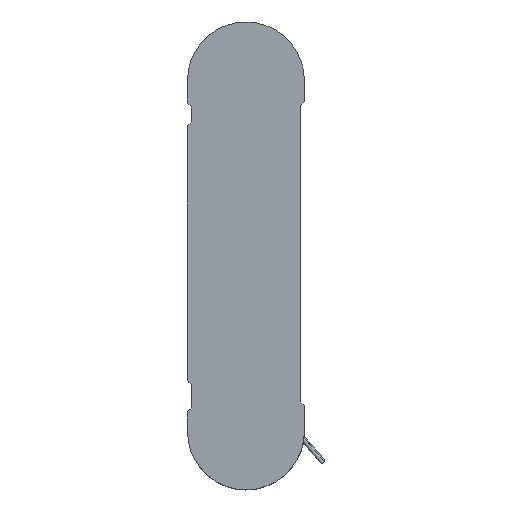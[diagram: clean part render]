
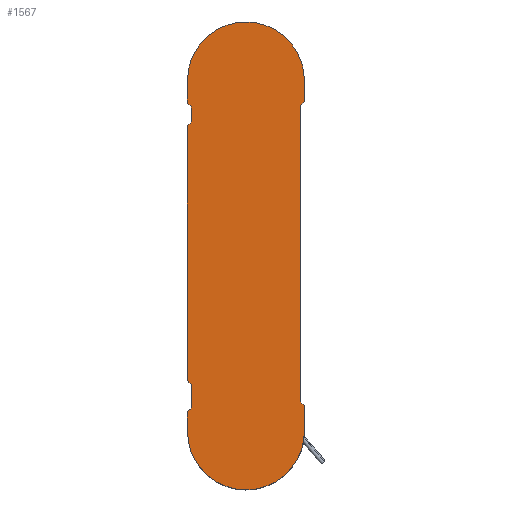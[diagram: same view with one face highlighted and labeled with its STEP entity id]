
A CAD part, top view. The second image highlights one B-rep face of the part: STEP entity #1567.
In plain terms, the highlighted planar face has unit normal (0, 0, 1).
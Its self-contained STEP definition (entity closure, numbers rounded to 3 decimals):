
#41 = VERTEX_POINT ( 'NONE', #2997 ) ;
#65 = LINE ( 'NONE', #2653, #1391 ) ;
#66 = LINE ( 'NONE', #1562, #266 ) ;
#78 = CARTESIAN_POINT ( 'NONE',  ( -7., -19.5, 12. ) ) ;
#104 = CARTESIAN_POINT ( 'NONE',  ( -7.5, 16.7, 12. ) ) ;
#196 = EDGE_CURVE ( 'NONE', #692, #1817, #2874, .T. ) ;
#200 = EDGE_CURVE ( 'NONE', #2324, #2081, #926, .T. ) ;
#225 = LINE ( 'NONE', #488, #587 ) ;
#250 = DIRECTION ( 'NONE',  ( 0., -1., 0. ) ) ;
#259 = DIRECTION ( 'NONE',  ( 0.707, -0.707, 0. ) ) ;
#266 = VECTOR ( 'NONE', #259, 1000. ) ;
#273 = CARTESIAN_POINT ( 'NONE',  ( 7.5, -22.5, 12. ) ) ;
#319 = CARTESIAN_POINT ( 'NONE',  ( -7., 19.1, 12. ) ) ;
#477 = CIRCLE ( 'NONE', #1967, 7.5 ) ;
#486 = ORIENTED_EDGE ( 'NONE', *, *, #3043, .F. ) ;
#488 = CARTESIAN_POINT ( 'NONE',  ( -7., 17.2, 12. ) ) ;
#522 = CARTESIAN_POINT ( 'NONE',  ( -7.5, -20., 12. ) ) ;
#529 = EDGE_CURVE ( 'NONE', #3071, #2928, #1082, .T. ) ;
#587 = VECTOR ( 'NONE', #2351, 1000. ) ;
#634 = EDGE_LOOP ( 'NONE', ( #2420, #2416, #3000, #3210, #863, #486, #1242, #3077, #895, #1446, #1650, #2578, #810, #1868, #2241, #2394 ) ) ;
#692 = VERTEX_POINT ( 'NONE', #2933 ) ;
#712 = CARTESIAN_POINT ( 'NONE',  ( 7.5, 19.8, 12. ) ) ;
#714 = LINE ( 'NONE', #2233, #2186 ) ;
#733 = CARTESIAN_POINT ( 'NONE',  ( -7.5, -16., 12. ) ) ;
#758 = CARTESIAN_POINT ( 'NONE',  ( -7.5, -22.5, 12. ) ) ;
#778 = CARTESIAN_POINT ( 'NONE',  ( -7.5, -22.5, 12. ) ) ;
#799 = EDGE_CURVE ( 'NONE', #1028, #1817, #2512, .T. ) ;
#810 = ORIENTED_EDGE ( 'NONE', *, *, #3310, .F. ) ;
#839 = VECTOR ( 'NONE', #1407, 1000. ) ;
#843 = LINE ( 'NONE', #2105, #3445 ) ;
#863 = ORIENTED_EDGE ( 'NONE', *, *, #2521, .F. ) ;
#871 = FACE_OUTER_BOUND ( 'NONE', #634, .T. ) ;
#877 = LINE ( 'NONE', #1663, #1759 ) ;
#895 = ORIENTED_EDGE ( 'NONE', *, *, #200, .T. ) ;
#926 = CIRCLE ( 'NONE', #2193, 7.5 ) ;
#1006 = DIRECTION ( 'NONE',  ( 0., -1., 0. ) ) ;
#1011 = DIRECTION ( 'NONE',  ( 1., 0., 0. ) ) ;
#1020 = AXIS2_PLACEMENT_3D ( 'NONE', #2850, #2045, #2016 ) ;
#1028 = VERTEX_POINT ( 'NONE', #1279 ) ;
#1052 = LINE ( 'NONE', #758, #3447 ) ;
#1059 = DIRECTION ( 'NONE',  ( 0., 1., 0. ) ) ;
#1082 = LINE ( 'NONE', #78, #3313 ) ;
#1090 = VECTOR ( 'NONE', #1059, 1000. ) ;
#1131 = EDGE_CURVE ( 'NONE', #3071, #2324, #3223, .T. ) ;
#1136 = DIRECTION ( 'NONE',  ( 0.707, 0.707, 0. ) ) ;
#1242 = ORIENTED_EDGE ( 'NONE', *, *, #529, .F. ) ;
#1279 = CARTESIAN_POINT ( 'NONE',  ( 7., 19.3, 12. ) ) ;
#1320 = DIRECTION ( 'NONE',  ( 0., -1., 0. ) ) ;
#1326 = VERTEX_POINT ( 'NONE', #319 ) ;
#1391 = VECTOR ( 'NONE', #1822, 1000. ) ;
#1407 = DIRECTION ( 'NONE',  ( 0., -1., 0. ) ) ;
#1436 = CARTESIAN_POINT ( 'NONE',  ( -7., -16.5, 12. ) ) ;
#1446 = ORIENTED_EDGE ( 'NONE', *, *, #2938, .T. ) ;
#1457 = CARTESIAN_POINT ( 'NONE',  ( 0., -22.5, 12. ) ) ;
#1483 = PLANE ( 'NONE',  #1020 ) ;
#1485 = VERTEX_POINT ( 'NONE', #1668 ) ;
#1526 = VERTEX_POINT ( 'NONE', #1436 ) ;
#1562 = CARTESIAN_POINT ( 'NONE',  ( -7.5, 19.6, 12. ) ) ;
#1563 = VERTEX_POINT ( 'NONE', #712 ) ;
#1567 = ADVANCED_FACE ( 'NONE', ( #871 ), #1483, .F. ) ;
#1644 = EDGE_CURVE ( 'NONE', #1485, #2422, #477, .T. ) ;
#1650 = ORIENTED_EDGE ( 'NONE', *, *, #196, .T. ) ;
#1663 = CARTESIAN_POINT ( 'NONE',  ( 7.5, 19.8, 12. ) ) ;
#1668 = CARTESIAN_POINT ( 'NONE',  ( 7.5, 22.5, 12. ) ) ;
#1688 = VERTEX_POINT ( 'NONE', #733 ) ;
#1725 = DIRECTION ( 'NONE',  ( -1., 0., 0. ) ) ;
#1739 = DIRECTION ( 'NONE',  ( -0.707, 0.707, 0. ) ) ;
#1759 = VECTOR ( 'NONE', #3022, 1000. ) ;
#1813 = DIRECTION ( 'NONE',  ( 0., 0., 1. ) ) ;
#1817 = VERTEX_POINT ( 'NONE', #3013 ) ;
#1822 = DIRECTION ( 'NONE',  ( 0., 1., 0. ) ) ;
#1851 = VECTOR ( 'NONE', #2012, 1000. ) ;
#1868 = ORIENTED_EDGE ( 'NONE', *, *, #2793, .T. ) ;
#1967 = AXIS2_PLACEMENT_3D ( 'NONE', #3404, #1813, #1011 ) ;
#2012 = DIRECTION ( 'NONE',  ( 0., 1., 0. ) ) ;
#2016 = DIRECTION ( 'NONE',  ( -1., 0., 0. ) ) ;
#2045 = DIRECTION ( 'NONE',  ( 0., 0., -1. ) ) ;
#2069 = EDGE_CURVE ( 'NONE', #41, #2080, #225, .T. ) ;
#2080 = VERTEX_POINT ( 'NONE', #104 ) ;
#2081 = VERTEX_POINT ( 'NONE', #273 ) ;
#2105 = CARTESIAN_POINT ( 'NONE',  ( -7.5, -22.5, 12. ) ) ;
#2147 = EDGE_CURVE ( 'NONE', #1326, #41, #714, .T. ) ;
#2170 = VERTEX_POINT ( 'NONE', #2669 ) ;
#2186 = VECTOR ( 'NONE', #2759, 1000. ) ;
#2193 = AXIS2_PLACEMENT_3D ( 'NONE', #1457, #3108, #1725 ) ;
#2233 = CARTESIAN_POINT ( 'NONE',  ( -7., 0., 12. ) ) ;
#2241 = ORIENTED_EDGE ( 'NONE', *, *, #1644, .T. ) ;
#2244 = CARTESIAN_POINT ( 'NONE',  ( -7.5, -22.5, 12. ) ) ;
#2248 = CARTESIAN_POINT ( 'NONE',  ( 7.5, -22.5, 12. ) ) ;
#2324 = VERTEX_POINT ( 'NONE', #2244 ) ;
#2351 = DIRECTION ( 'NONE',  ( -0.707, -0.707, 0. ) ) ;
#2354 = CARTESIAN_POINT ( 'NONE',  ( 7.5, -22.5, 12. ) ) ;
#2394 = ORIENTED_EDGE ( 'NONE', *, *, #2547, .T. ) ;
#2416 = ORIENTED_EDGE ( 'NONE', *, *, #2147, .T. ) ;
#2420 = ORIENTED_EDGE ( 'NONE', *, *, #2583, .T. ) ;
#2422 = VERTEX_POINT ( 'NONE', #3397 ) ;
#2512 = LINE ( 'NONE', #2520, #839 ) ;
#2520 = CARTESIAN_POINT ( 'NONE',  ( 7., 19.3, 12. ) ) ;
#2521 = EDGE_CURVE ( 'NONE', #1526, #1688, #3359, .T. ) ;
#2537 = CARTESIAN_POINT ( 'NONE',  ( 7.5, -19.2, 12. ) ) ;
#2547 = EDGE_CURVE ( 'NONE', #2422, #2170, #1052, .T. ) ;
#2578 = ORIENTED_EDGE ( 'NONE', *, *, #799, .F. ) ;
#2583 = EDGE_CURVE ( 'NONE', #2170, #1326, #66, .T. ) ;
#2653 = CARTESIAN_POINT ( 'NONE',  ( -7., -16.5, 12. ) ) ;
#2669 = CARTESIAN_POINT ( 'NONE',  ( -7.5, 19.6, 12. ) ) ;
#2759 = DIRECTION ( 'NONE',  ( 0., -1., 0. ) ) ;
#2793 = EDGE_CURVE ( 'NONE', #1563, #1485, #3355, .T. ) ;
#2850 = CARTESIAN_POINT ( 'NONE',  ( 0., -22.5, 12. ) ) ;
#2874 = LINE ( 'NONE', #2537, #3407 ) ;
#2896 = CARTESIAN_POINT ( 'NONE',  ( -7., -19.5, 12. ) ) ;
#2913 = DIRECTION ( 'NONE',  ( -0.707, 0.707, 0. ) ) ;
#2928 = VERTEX_POINT ( 'NONE', #2896 ) ;
#2933 = CARTESIAN_POINT ( 'NONE',  ( 7.5, -19.2, 12. ) ) ;
#2938 = EDGE_CURVE ( 'NONE', #2081, #692, #3066, .T. ) ;
#2982 = EDGE_CURVE ( 'NONE', #2080, #1688, #843, .T. ) ;
#2997 = CARTESIAN_POINT ( 'NONE',  ( -7., 17.2, 12. ) ) ;
#3000 = ORIENTED_EDGE ( 'NONE', *, *, #2069, .T. ) ;
#3013 = CARTESIAN_POINT ( 'NONE',  ( 7., -18.7, 12. ) ) ;
#3022 = DIRECTION ( 'NONE',  ( -0.707, -0.707, 0. ) ) ;
#3043 = EDGE_CURVE ( 'NONE', #2928, #1526, #65, .T. ) ;
#3066 = LINE ( 'NONE', #2354, #1090 ) ;
#3071 = VERTEX_POINT ( 'NONE', #522 ) ;
#3077 = ORIENTED_EDGE ( 'NONE', *, *, #1131, .T. ) ;
#3108 = DIRECTION ( 'NONE',  ( 0., 0., 1. ) ) ;
#3196 = VECTOR ( 'NONE', #2913, 1000. ) ;
#3204 = CARTESIAN_POINT ( 'NONE',  ( -7.5, -16., 12. ) ) ;
#3210 = ORIENTED_EDGE ( 'NONE', *, *, #2982, .T. ) ;
#3223 = LINE ( 'NONE', #778, #3386 ) ;
#3310 = EDGE_CURVE ( 'NONE', #1563, #1028, #877, .T. ) ;
#3313 = VECTOR ( 'NONE', #1136, 1000. ) ;
#3355 = LINE ( 'NONE', #2248, #1851 ) ;
#3359 = LINE ( 'NONE', #3204, #3196 ) ;
#3386 = VECTOR ( 'NONE', #250, 1000. ) ;
#3397 = CARTESIAN_POINT ( 'NONE',  ( -7.5, 22.5, 12. ) ) ;
#3404 = CARTESIAN_POINT ( 'NONE',  ( 0., 22.5, 12. ) ) ;
#3407 = VECTOR ( 'NONE', #1739, 1000. ) ;
#3445 = VECTOR ( 'NONE', #1320, 1000. ) ;
#3447 = VECTOR ( 'NONE', #1006, 1000. ) ;
